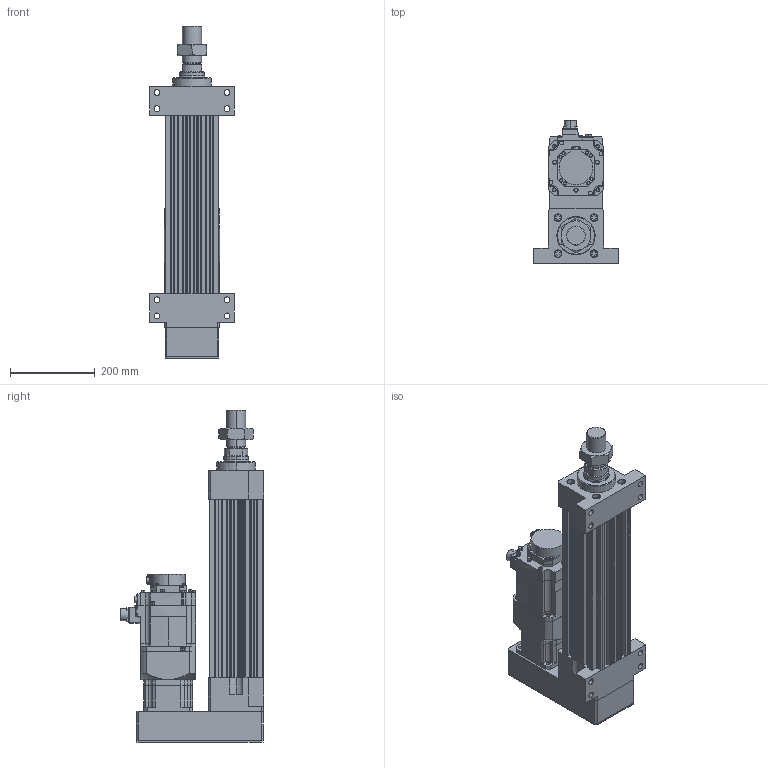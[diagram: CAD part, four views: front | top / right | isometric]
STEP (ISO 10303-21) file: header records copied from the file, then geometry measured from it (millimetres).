
FILE_DESCRIPTION (( 'STEP AP203' ), '1' );
FILE_NAME ('HES130NS(FS)(HS)-P200-W015G00-M-FFB.STEP', '2026-06-10T06:06:44', ( 'tms' ), ( '' ), 'SwSTEP 2.0', 'SolidWorks 2013', '' );
FILE_SCHEMA (( 'CONFIG_CONTROL_DESIGN' ));
Length unit declared in the file: millimetre
Products named in the file (8): HES130-M-ROD-200; AB1151; HES130NS(FS)(HS)-P200-W015G00-M-FFB; M45X1.5P; HG-SR152B; HES130-FFB-200; AB1152; HES130-P-G120
Assembly tree (7 placements, depth 2):
  HES130NS(FS)(HS)-P200-W015G00-M-FFB
    HES130-FFB-200
    HES130-M-ROD-200
    M45X1.5P
    HES130-P-G120
    AB1151
    AB1152
    HG-SR152B
Bounding box: 200 x 337.49 x 782 mm (x, y, z)
Volume: 10084753.1 mm3; surface area: 1210395.2 mm2
Topology: 5 solids, 12 shells, 1206 faces, 3060 edges, 1987 vertices
Faces by surface type: cylinder 568, plane 542, cone 82, bspline 10, torus 4
Entity records: 38313 total; most frequent: CARTESIAN_POINT 7368, DIRECTION 6633, ORIENTED_EDGE 6076, EDGE_CURVE 3048, AXIS2_PLACEMENT_3D 2473, VERTEX_POINT 1987, VECTOR 1687, LINE 1687
